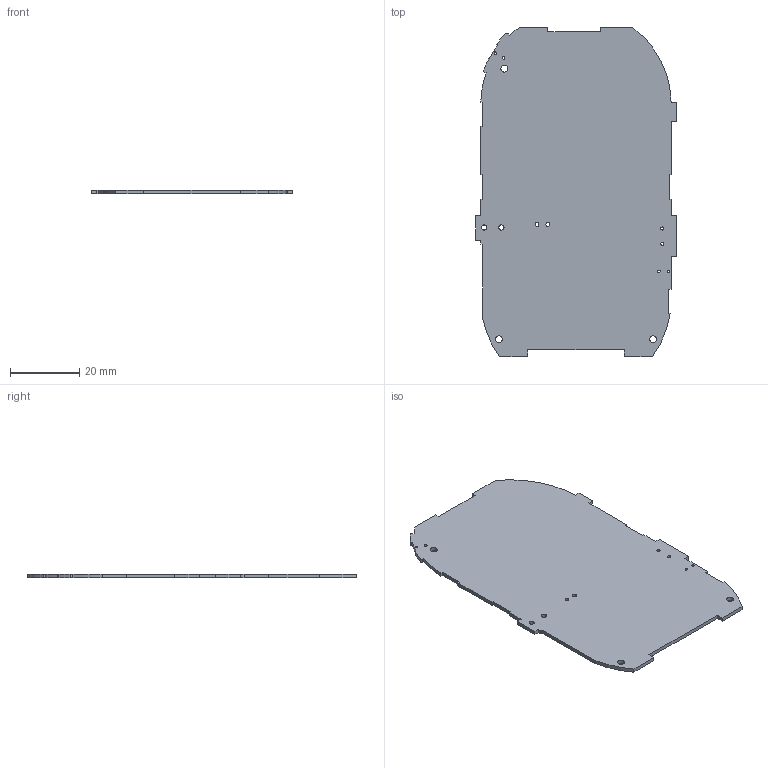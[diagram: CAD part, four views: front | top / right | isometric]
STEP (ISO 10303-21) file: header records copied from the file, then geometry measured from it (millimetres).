
FILE_DESCRIPTION((''),'2;1');
FILE_NAME('CT0GPS-A-MPM1_PRT','2008-06-30T',('GRA'),(''),'PRO/ENGINEER BY PARAMETRIC TECHNOLOGY CORPORATION, 2006170','PRO/ENGINEER BY PARAMETRIC TECHNOLOGY CORPORATION, 2006170','');
FILE_SCHEMA(('CONFIG_CONTROL_DESIGN'));
Length unit declared in the file: millimetre
Products named in the file (1): CT0GPS-A-MPM1_PRT
Bounding box: 58 x 95.1 x 1.1 mm (x, y, z)
Volume: 5451.1 mm3; surface area: 10295.6 mm2
Topology: 1 solids, 1 shells, 83 faces, 243 edges, 162 vertices
Faces by surface type: plane 45, cylinder 37, bspline 1
Entity records: 2888 total; most frequent: CARTESIAN_POINT 523, ORIENTED_EDGE 486, DIRECTION 479, EDGE_CURVE 243, VECTOR 167, LINE 167, VERTEX_POINT 162, AXIS2_PLACEMENT_3D 156
